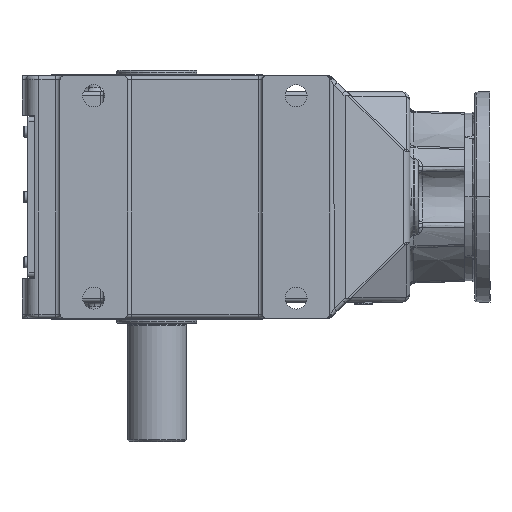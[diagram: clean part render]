
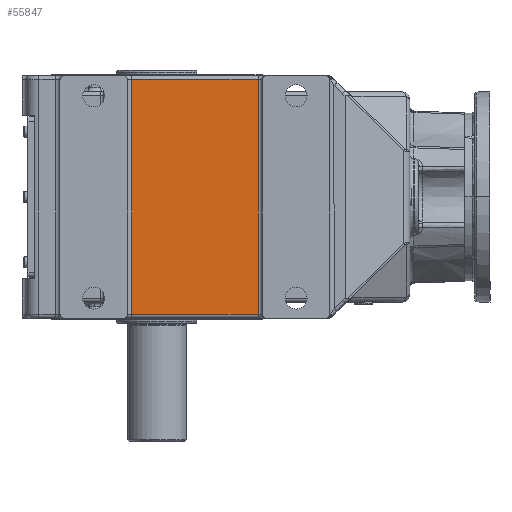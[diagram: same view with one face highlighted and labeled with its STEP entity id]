
A CAD part, front view. The second image highlights one B-rep face of the part: STEP entity #55847.
In plain terms, the highlighted planar face has unit normal (0, -1, 0).
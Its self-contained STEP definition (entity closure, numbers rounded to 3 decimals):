
#6717 = CARTESIAN_POINT ( 'NONE',  ( 139., -260., 30. ) ) ;
#6750 = CARTESIAN_POINT ( 'NONE',  ( -139., -260., 30. ) ) ;
#6791 = CARTESIAN_POINT ( 'NONE',  ( 139., -260., -120. ) ) ;
#6823 = CARTESIAN_POINT ( 'NONE',  ( -139., -260., -120. ) ) ;
#6845 = CARTESIAN_POINT ( 'NONE',  ( -144., -260., 30. ) ) ;
#6851 = DIRECTION ( 'NONE',  ( 0., 0., -1. ) ) ;
#6852 = LINE ( 'NONE', #6845, #6891 ) ;
#6855 = VECTOR ( 'NONE', #6851, 1000. ) ;
#6862 = DIRECTION ( 'NONE',  ( 0., 0., 1. ) ) ;
#6863 = CARTESIAN_POINT ( 'NONE',  ( 139., -260., -125. ) ) ;
#6865 = DIRECTION ( 'NONE',  ( 1., 0., 0. ) ) ;
#6866 = VECTOR ( 'NONE', #6865, 1000. ) ;
#6867 = CARTESIAN_POINT ( 'NONE',  ( 144., -260., -120. ) ) ;
#6868 = LINE ( 'NONE', #6867, #6866 ) ;
#6869 = CARTESIAN_POINT ( 'NONE',  ( -139., -260., -125. ) ) ;
#6870 = LINE ( 'NONE', #6869, #6855 ) ;
#6872 = DIRECTION ( 'NONE',  ( 0., 0., 1. ) ) ;
#6878 = AXIS2_PLACEMENT_3D ( 'NONE', #6886, #6885, #6872 ) ;
#6879 = PLANE ( 'NONE',  #6878 ) ;
#6885 = DIRECTION ( 'NONE',  ( 0., 1., 0. ) ) ;
#6886 = CARTESIAN_POINT ( 'NONE',  ( 144., -260., -125. ) ) ;
#6889 = FACE_OUTER_BOUND ( 'NONE', #55784, .T. ) ;
#6890 = DIRECTION ( 'NONE',  ( -1., 0., 0. ) ) ;
#6891 = VECTOR ( 'NONE', #6890, 1000. ) ;
#6893 = VECTOR ( 'NONE', #6862, 1000. ) ;
#6895 = LINE ( 'NONE', #6863, #6893 ) ;
#55752 = VERTEX_POINT ( 'NONE', #6717 ) ;
#55773 = VERTEX_POINT ( 'NONE', #6750 ) ;
#55774 = VERTEX_POINT ( 'NONE', #6791 ) ;
#55780 = ORIENTED_EDGE ( 'NONE', *, *, #55811, .T. ) ;
#55784 = EDGE_LOOP ( 'NONE', ( #55794, #55834, #55817, #55780 ) ) ;
#55794 = ORIENTED_EDGE ( 'NONE', *, *, #55832, .T. ) ;
#55803 = VERTEX_POINT ( 'NONE', #6823 ) ;
#55811 = EDGE_CURVE ( 'NONE', #55803, #55774, #6868, .T. ) ;
#55817 = ORIENTED_EDGE ( 'NONE', *, *, #55820, .T. ) ;
#55820 = EDGE_CURVE ( 'NONE', #55773, #55803, #6870, .T. ) ;
#55832 = EDGE_CURVE ( 'NONE', #55774, #55752, #6895, .T. ) ;
#55834 = ORIENTED_EDGE ( 'NONE', *, *, #55835, .T. ) ;
#55835 = EDGE_CURVE ( 'NONE', #55752, #55773, #6852, .T. ) ;
#55847 = ADVANCED_FACE ( 'NONE', ( #6889 ), #6879, .F. ) ;
